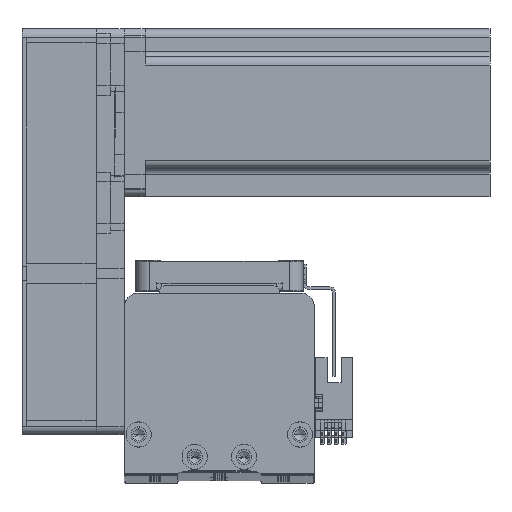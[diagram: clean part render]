
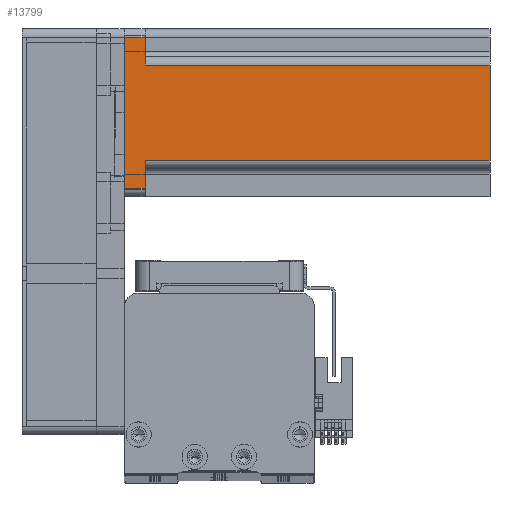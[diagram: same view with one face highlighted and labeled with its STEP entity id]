
A CAD part, top view. The second image highlights one B-rep face of the part: STEP entity #13799.
In plain terms, the highlighted planar face has unit normal (0, 0, 1) as drawn and (0, 1, 0) by its records, which use the part's own axes.
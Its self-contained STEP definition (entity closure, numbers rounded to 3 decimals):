
#1696 = VECTOR ( 'NONE', #51072, 1000. ) ;
#3013 = CARTESIAN_POINT ( 'NONE',  ( 17., 30., 130.7 ) ) ;
#4554 = CARTESIAN_POINT ( 'NONE',  ( -20., 30., 7.5 ) ) ;
#5076 = CARTESIAN_POINT ( 'NONE',  ( 27., 30., 130.7 ) ) ;
#5618 = VECTOR ( 'NONE', #29820, 1000. ) ;
#5797 = ORIENTED_EDGE ( 'NONE', *, *, #30411, .T. ) ;
#5847 = LINE ( 'NONE', #11435, #37777 ) ;
#6585 = VERTEX_POINT ( 'NONE', #3013 ) ;
#8736 = DIRECTION ( 'NONE',  ( 0., 0., 1. ) ) ;
#8738 = DIRECTION ( 'NONE',  ( 1., 0., 0. ) ) ;
#10281 = VERTEX_POINT ( 'NONE', #11081 ) ;
#10574 = ORIENTED_EDGE ( 'NONE', *, *, #32253, .F. ) ;
#11081 = CARTESIAN_POINT ( 'NONE',  ( -17., 30., 7.5 ) ) ;
#11435 = CARTESIAN_POINT ( 'NONE',  ( -27., 30., 130.7 ) ) ;
#12428 = EDGE_CURVE ( 'NONE', #29634, #31061, #17676, .T. ) ;
#12781 = LINE ( 'NONE', #38556, #1696 ) ;
#13103 = VECTOR ( 'NONE', #50938, 1000. ) ;
#13799 = ADVANCED_FACE ( 'NONE', ( #29582 ), #39214, .F. ) ;
#13860 = ORIENTED_EDGE ( 'NONE', *, *, #23408, .T. ) ;
#16308 = ORIENTED_EDGE ( 'NONE', *, *, #17276, .F. ) ;
#17276 = EDGE_CURVE ( 'NONE', #30953, #34342, #24169, .T. ) ;
#17676 = LINE ( 'NONE', #18580, #28700 ) ;
#18580 = CARTESIAN_POINT ( 'NONE',  ( 30., 30., 0. ) ) ;
#18690 = CARTESIAN_POINT ( 'NONE',  ( 30., 30., 130.7 ) ) ;
#20997 = VECTOR ( 'NONE', #27842, 1000. ) ;
#21313 = ORIENTED_EDGE ( 'NONE', *, *, #37999, .T. ) ;
#21413 = EDGE_CURVE ( 'NONE', #31061, #32625, #5847, .T. ) ;
#22756 = DIRECTION ( 'NONE',  ( -1., 0., 0. ) ) ;
#22869 = DIRECTION ( 'NONE',  ( 1., 0., 0. ) ) ;
#23000 = ORIENTED_EDGE ( 'NONE', *, *, #21413, .T. ) ;
#23408 = EDGE_CURVE ( 'NONE', #32625, #10281, #49987, .T. ) ;
#24050 = AXIS2_PLACEMENT_3D ( 'NONE', #18690, #47730, #22869 ) ;
#24169 = LINE ( 'NONE', #51127, #13103 ) ;
#27842 = DIRECTION ( 'NONE',  ( 0., 0., -1. ) ) ;
#27882 = VECTOR ( 'NONE', #8738, 1000. ) ;
#28279 = CARTESIAN_POINT ( 'NONE',  ( -27., 30., 7.5 ) ) ;
#28700 = VECTOR ( 'NONE', #22756, 1000. ) ;
#28925 = EDGE_CURVE ( 'NONE', #30953, #29634, #37534, .T. ) ;
#29225 = EDGE_LOOP ( 'NONE', ( #13860, #21313, #10574, #5797, #16308, #35559, #35075, #23000 ) ) ;
#29582 = FACE_OUTER_BOUND ( 'NONE', #29225, .T. ) ;
#29634 = VERTEX_POINT ( 'NONE', #51213 ) ;
#29820 = DIRECTION ( 'NONE',  ( 0., 0., -1. ) ) ;
#30411 = EDGE_CURVE ( 'NONE', #6585, #34342, #44400, .T. ) ;
#30953 = VERTEX_POINT ( 'NONE', #43968 ) ;
#31061 = VERTEX_POINT ( 'NONE', #49188 ) ;
#32253 = EDGE_CURVE ( 'NONE', #6585, #35290, #12781, .T. ) ;
#32625 = VERTEX_POINT ( 'NONE', #28279 ) ;
#33313 = CARTESIAN_POINT ( 'NONE',  ( -17., 30., 130.7 ) ) ;
#34342 = VERTEX_POINT ( 'NONE', #41204 ) ;
#35075 = ORIENTED_EDGE ( 'NONE', *, *, #12428, .T. ) ;
#35290 = VERTEX_POINT ( 'NONE', #44005 ) ;
#35559 = ORIENTED_EDGE ( 'NONE', *, *, #28925, .T. ) ;
#37120 = VECTOR ( 'NONE', #8736, 1000. ) ;
#37534 = LINE ( 'NONE', #5076, #5618 ) ;
#37777 = VECTOR ( 'NONE', #48862, 1000. ) ;
#37999 = EDGE_CURVE ( 'NONE', #10281, #35290, #53397, .T. ) ;
#38556 = CARTESIAN_POINT ( 'NONE',  ( 30., 30., 130.7 ) ) ;
#39214 = PLANE ( 'NONE',  #24050 ) ;
#41204 = CARTESIAN_POINT ( 'NONE',  ( 17., 30., 7.5 ) ) ;
#43968 = CARTESIAN_POINT ( 'NONE',  ( 27., 30., 7.5 ) ) ;
#44005 = CARTESIAN_POINT ( 'NONE',  ( -17., 30., 130.7 ) ) ;
#44400 = LINE ( 'NONE', #52961, #20997 ) ;
#47730 = DIRECTION ( 'NONE',  ( 0., -1., 0. ) ) ;
#48862 = DIRECTION ( 'NONE',  ( 0., 0., 1. ) ) ;
#49188 = CARTESIAN_POINT ( 'NONE',  ( -27., 30., 0. ) ) ;
#49987 = LINE ( 'NONE', #4554, #27882 ) ;
#50938 = DIRECTION ( 'NONE',  ( -1., 0., 0. ) ) ;
#51072 = DIRECTION ( 'NONE',  ( -1., 0., 0. ) ) ;
#51127 = CARTESIAN_POINT ( 'NONE',  ( 20., 30., 7.5 ) ) ;
#51213 = CARTESIAN_POINT ( 'NONE',  ( 27., 30., 0. ) ) ;
#52961 = CARTESIAN_POINT ( 'NONE',  ( 17., 30., 130.7 ) ) ;
#53397 = LINE ( 'NONE', #33313, #37120 ) ;
